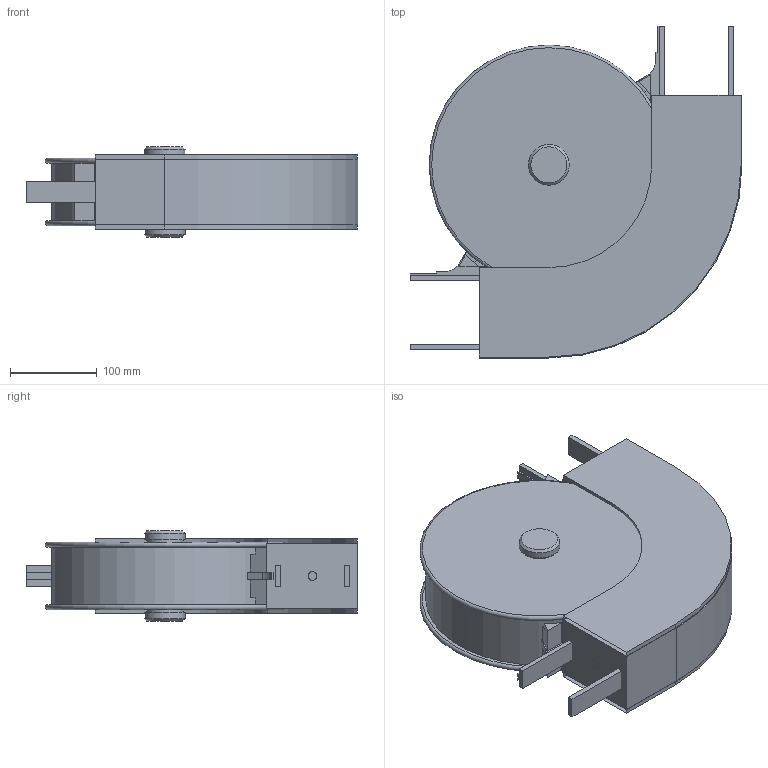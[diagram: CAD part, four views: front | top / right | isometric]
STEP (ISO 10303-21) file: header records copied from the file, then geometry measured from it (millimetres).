
FILE_DESCRIPTION(/* description */ ('Bogenrad 90°'),/* implementation_level */ '2;1');
FILE_NAME(/* name */ 'T:\vdz0\Step Daten Website\modulflex FH-System\Bogenräder\FHBH 90R170 A_44020.stp',/* time_stamp */ '2024-09-03T10:54:57+02:00',/* author */ ('lzb0'),/* organization */ ('modular automation GmbH'),/* preprocessor_version */ 'ST-DEVELOPER v18.1',/* originating_system */ 'Autodesk Inventor 2021',/* authorisation */ '');
FILE_SCHEMA (('AUTOMOTIVE_DESIGN { 1 0 10303 214 3 1 1 }'));
Length unit declared in the file: millimetre
Products named in the file (1): FHBH 90R170 A
Bounding box: 382.5 x 382.5 x 104 mm (x, y, z)
Volume: 7815284.3 mm3; surface area: 609213.3 mm2
Topology: 8 solids, 12 shells, 123 faces, 289 edges, 192 vertices
Faces by surface type: plane 104, cylinder 15, cone 2, torus 2
Full cylindrical faces by diameter (mm): 10 x2, 42 x2, 47 x2, 262 x1
Entity records: 3581 total; most frequent: CARTESIAN_POINT 612, DIRECTION 577, ORIENTED_EDGE 558, EDGE_CURVE 289, LINE 251, VECTOR 251, VERTEX_POINT 192, AXIS2_PLACEMENT_3D 163
